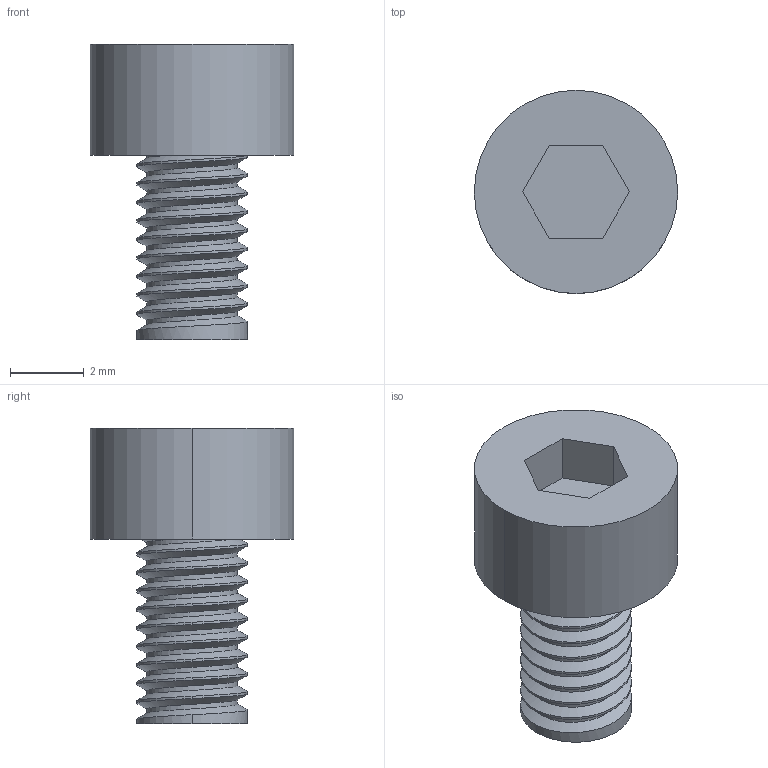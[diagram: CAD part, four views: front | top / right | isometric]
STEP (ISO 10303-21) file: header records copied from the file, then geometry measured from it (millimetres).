
FILE_DESCRIPTION (( 'STEP AP203' ), '1' );
FILE_NAME ('07_Vit_M3x5.STEP', '2026-11-14T10:02:44', ( '' ), ( '' ), 'SwSTEP 2.0', 'SolidWorks 2026', '' );
FILE_SCHEMA (( 'CONFIG_CONTROL_DESIGN' ));
Length unit declared in the file: metre
Products named in the file (1): 07_Vit_M3x5
Bounding box: 5.5 x 5.5 x 8 mm (x, y, z)
Volume: 92.9 mm3; surface area: 183.5 mm2
Topology: 1 solids, 1 shells, 39 faces, 98 edges, 63 vertices
Faces by surface type: cylinder 24, plane 12, bspline 3
Entity records: 2288 total; most frequent: CARTESIAN_POINT 1406, ORIENTED_EDGE 196, DIRECTION 138, EDGE_CURVE 98, VERTEX_POINT 63, VECTOR 48, LINE 48, AXIS2_PLACEMENT_3D 45
